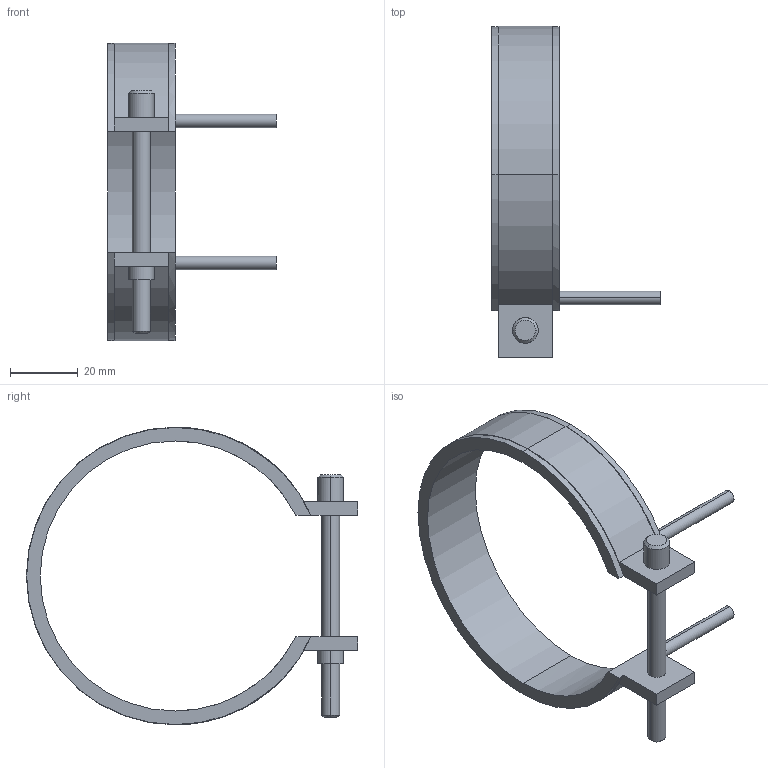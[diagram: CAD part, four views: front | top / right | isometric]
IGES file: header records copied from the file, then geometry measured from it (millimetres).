
Start section: START RECORD GO HERE.
Global section: file name: 14080020.igs; native system: DASSAULT SYSTEMES CATIA V5 R20 - www.3ds.com; preprocessor: CATIA Version 5 Release 20 ; author: Utente; organization: NB04-ASUS; date: 20210403.104125; units: millimetre
Bounding box: 50 x 98.1 x 88.2 mm (x, y, z)
Surface area: 14130.8 mm2 (no closed solid volume)
Topology: 0 solids, 0 shells, 45 faces, 232 edges, 232 vertices
Faces by surface type: revolution 28, plane 17
